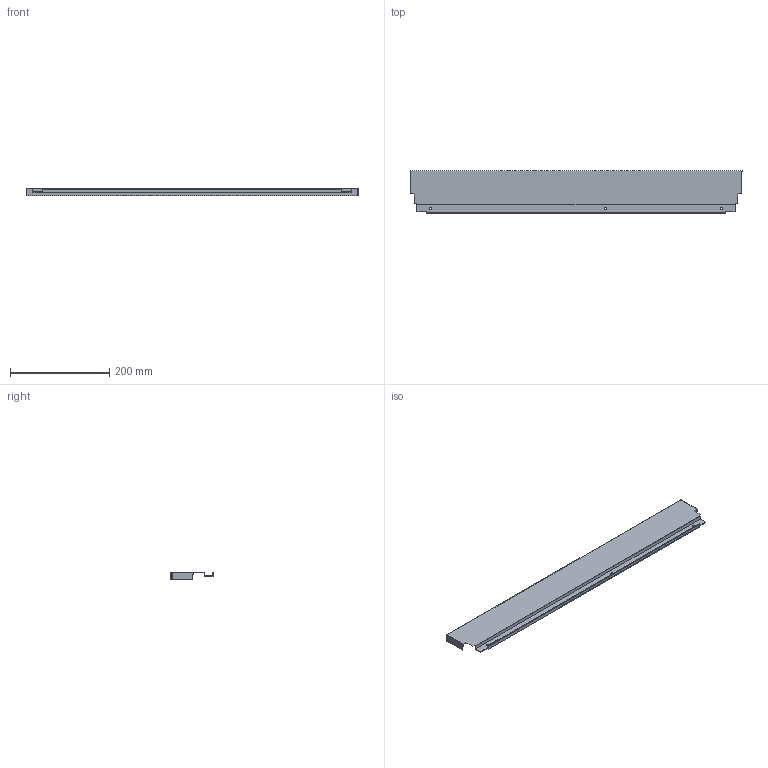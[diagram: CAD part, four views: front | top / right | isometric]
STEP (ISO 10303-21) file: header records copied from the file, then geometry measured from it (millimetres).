
FILE_DESCRIPTION (( 'STEP AP214' ), '1' );
FILE_NAME ('_DWD_XP Stahlrückwand_H86_KAB750_S16.step', '2010-07-08T12:09:58', ( 'grass' ), ( '' ), 'SwSTEP 2.0', 'SolidWorks 2010', '' );
FILE_SCHEMA (( 'AUTOMOTIVE_DESIGN' ));
Length unit declared in the file: millimetre
Products named in the file (1): _DWD_XP Stahlrückwand_H86_KAB750_S16
Bounding box: 669 x 85.79 x 16 mm (x, y, z)
Volume: 71506.4 mm3; surface area: 155485.6 mm2
Topology: 1 solids, 1 shells, 50 faces, 144 edges, 96 vertices
Faces by surface type: plane 44, cylinder 6
Entity records: 1666 total; most frequent: CARTESIAN_POINT 291, ORIENTED_EDGE 288, DIRECTION 258, EDGE_CURVE 144, LINE 132, VECTOR 132, VERTEX_POINT 96, AXIS2_PLACEMENT_3D 63
